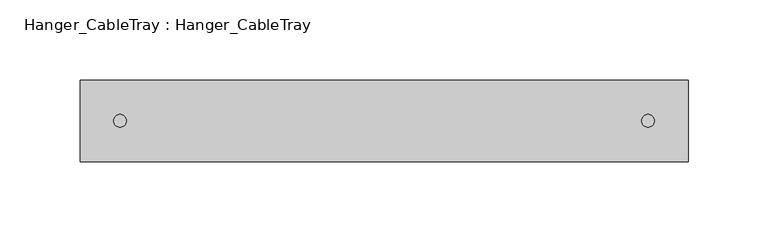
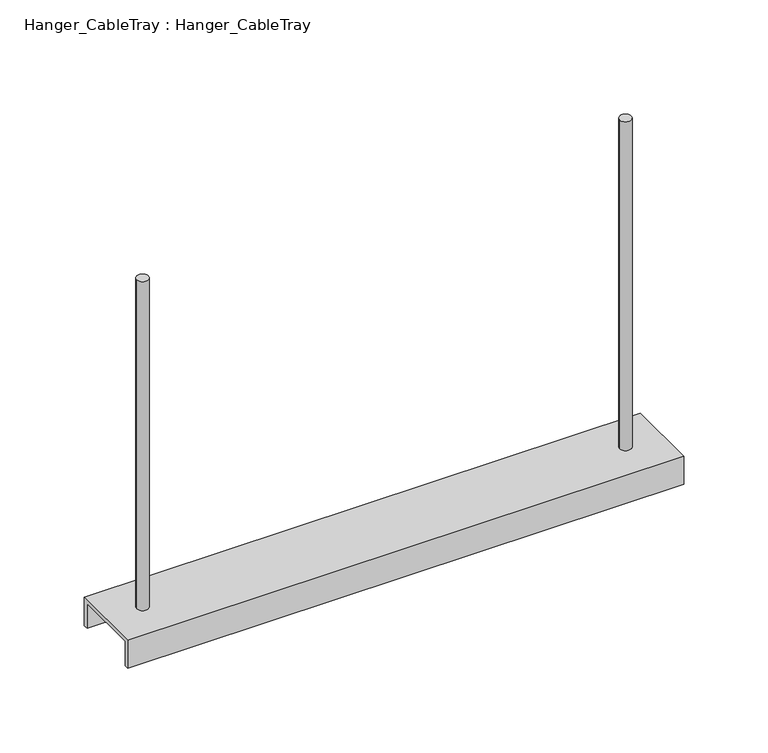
"""IFC4 building model written with IfcOpenShell, lengths in millimetres: cable carrier fitting geometry, Hanger_CableTray : Hanger_CableTray."""

from ifc_helpers import new_model, si_unit, frame, origin, place, context, project, spatial, circle_curve, source, transform, mapped, element, save
from ifc_brep_helpers import plane_surface, cylinder_surface, advanced_brep


def hanger_cabletray_hanger_cabletray_434e3e47(model_context):
    return source(origin(), model_context, "Body", "AdvancedBrep", [
        advanced_brep(
        [(-333.96875, 0.0, 25.0), (-326.03125, 0.0, 25.0), (-333.96875, 0.0, 283.0), (-326.03125, 0.0, 283.0), (-333.96875, 0.0, 45.3398437), (-326.03125, 0.0, 45.3398437), (-326.03125, 0.0, 42.7601562), (-333.96875, 0.0, 42.7601562), (25.0, -25.5, 45.3398437), (25.0, -25.5, 25.0), (25.0, -22.5, 25.0), (25.0, -22.5, 42.7601562), (25.0, 22.5, 42.7601562), (25.0, 22.5, 25.0), (25.0, 25.5, 25.0), (25.0, 25.5, 45.3398437), (-355.0, -25.5, 45.3398437), (-355.0, 25.5, 45.3398437), (-355.0, 25.5, 25.0), (-355.0, 22.5, 25.0), (-355.0, 22.5, 42.7601562), (-355.0, -22.5, 42.7601562), (-355.0, -22.5, 25.0), (-355.0, -25.5, 25.0), (3.96875, 0.0, 45.3398437), (-3.96875, 0.0, 45.3398437), (-3.96875, 0.0, 25.0), (3.96875, 0.0, 25.0), (-3.96875, 0.0, 283.0), (3.96875, 0.0, 283.0), (3.96875, 0.0, 42.7601562), (-3.96875, 0.0, 42.7601562)],
        [
            (0, 1, circle_curve(frame((-330.0, 0.0, 25.0), z_axis=(0.0, 0.0, -1.0), x_axis=(1.0, 0.0, 0.0)), 3.96875)),
            (1, 0, circle_curve(frame((-330.0, 0.0, 25.0), z_axis=(0.0, 0.0, -1.0), x_axis=(1.0, 0.0, 0.0)), 3.96875)),
            (2, 3, circle_curve(frame((-330.0, 0.0, 283.0), z_axis=(0.0, 0.0, 1.0), x_axis=(1.0, 0.0, 0.0)), 3.96875)),
            (3, 2, circle_curve(frame((-330.0, 0.0, 283.0), z_axis=(0.0, 0.0, 1.0), x_axis=(1.0, 0.0, 0.0)), 3.96875)),
            (2, 4),
            (4, 5, circle_curve(frame((-330.0, 0.0, 45.3398437), z_axis=(0.0, 0.0, 1.0), x_axis=(1.0, 0.0, 0.0)), 3.96875)),
            (5, 3),
            (1, 6),
            (6, 7, circle_curve(frame((-330.0, 0.0, 42.7601562), z_axis=(0.0, 0.0, -1.0), x_axis=(1.0, 0.0, 0.0)), 3.96875)),
            (7, 0),
            (5, 4, circle_curve(frame((-330.0, 0.0, 45.3398437), z_axis=(0.0, 0.0, 1.0), x_axis=(1.0, 0.0, 0.0)), 3.96875)),
            (7, 6, circle_curve(frame((-330.0, 0.0, 42.7601562), z_axis=(0.0, 0.0, -1.0), x_axis=(1.0, 0.0, 0.0)), 3.96875)),
            (8, 9),
            (9, 10),
            (10, 11),
            (11, 12),
            (12, 13),
            (13, 14),
            (14, 15),
            (15, 8),
            (16, 17),
            (17, 18),
            (18, 19),
            (19, 20),
            (20, 21),
            (21, 22),
            (22, 23),
            (23, 16),
            (8, 16),
            (23, 9),
            (13, 19),
            (18, 14),
            (17, 15),
            (24, 25, circle_curve(frame((0.0, 0.0, 45.3398437), z_axis=(0.0, 0.0, -1.0), x_axis=(1.0, 0.0, 0.0)), 3.96875)),
            (25, 24, circle_curve(frame((0.0, 0.0, 45.3398437), z_axis=(0.0, 0.0, -1.0), x_axis=(1.0, 0.0, 0.0)), 3.96875)),
            (26, 27, circle_curve(frame((0.0, 0.0, 25.0), z_axis=(0.0, 0.0, -1.0), x_axis=(1.0, 0.0, 0.0)), 3.96875)),
            (27, 26, circle_curve(frame((0.0, 0.0, 25.0), z_axis=(0.0, 0.0, -1.0), x_axis=(1.0, 0.0, 0.0)), 3.96875)),
            (28, 29, circle_curve(frame((0.0, 0.0, 283.0), z_axis=(0.0, 0.0, 1.0), x_axis=(1.0, 0.0, 0.0)), 3.96875)),
            (29, 28, circle_curve(frame((0.0, 0.0, 283.0), z_axis=(0.0, 0.0, 1.0), x_axis=(1.0, 0.0, 0.0)), 3.96875)),
            (28, 25),
            (24, 29),
            (27, 30),
            (30, 31, circle_curve(frame((0.0, 0.0, 42.7601562), z_axis=(0.0, 0.0, -1.0), x_axis=(1.0, 0.0, 0.0)), 3.96875)),
            (31, 26),
            (31, 30, circle_curve(frame((0.0, 0.0, 42.7601562), z_axis=(0.0, 0.0, -1.0), x_axis=(1.0, 0.0, 0.0)), 3.96875)),
            (22, 10),
            (21, 11),
            (20, 12),
        ],
        [
            plane_surface(frame((-326.03125, 0.0, 25.0), z_axis=(0.0, 0.0, -1.0), x_axis=(0.0, -1.0, 0.0))),
            plane_surface(frame((-326.03125, 0.0, 283.0), z_axis=(0.0, 0.0, 1.0), x_axis=(0.0, 1.0, 0.0))),
            cylinder_surface(frame((-330.0, 0.0, 25.0), z_axis=(0.0, 0.0, 1.0), x_axis=(1.0, 0.0, 0.0)), 3.96875),
            plane_surface(frame((25.0, -25.5, 45.3398437), z_axis=(1.0, 0.0, 0.0), x_axis=(0.0, 0.0, -1.0))),
            plane_surface(frame((-355.0, -25.5, 45.3398437), z_axis=(-1.0, 0.0, 0.0), x_axis=(0.0, 0.0, 1.0))),
            plane_surface(frame((25.0, -25.5, 45.3398437), z_axis=(0.0, -1.0, 0.0), x_axis=(-1.0, 0.0, 0.0))),
            plane_surface(frame((25.0, 22.5, 25.0), z_axis=(0.0, 0.0, -1.0), x_axis=(-1.0, 0.0, 0.0))),
            plane_surface(frame((25.0, 25.5, 25.0), z_axis=(0.0, 1.0, 0.0), x_axis=(-1.0, 0.0, 0.0))),
            plane_surface(frame((25.0, 25.5, 45.3398437), z_axis=(0.0, 0.0, 1.0), x_axis=(-1.0, 0.0, 0.0))),
            plane_surface(frame((3.96875, 0.0, 25.0), z_axis=(0.0, 0.0, -1.0), x_axis=(0.0, -1.0, 0.0))),
            plane_surface(frame((3.96875, 0.0, 283.0), z_axis=(0.0, 0.0, 1.0), x_axis=(0.0, 1.0, 0.0))),
            cylinder_surface(frame((0.0, 0.0, 25.0), z_axis=(0.0, 0.0, 1.0), x_axis=(1.0, 0.0, 0.0)), 3.96875),
            plane_surface(frame((25.0, -25.5, 25.0), z_axis=(0.0, 0.0, -1.0), x_axis=(-1.0, 0.0, 0.0))),
            plane_surface(frame((25.0, -22.5, 25.0), z_axis=(0.0, 1.0, 0.0), x_axis=(-1.0, 0.0, 0.0))),
            plane_surface(frame((25.0, -22.5, 42.7601562), z_axis=(0.0, 0.0, -1.0), x_axis=(-1.0, 0.0, 0.0))),
            plane_surface(frame((25.0, 22.5, 42.7601562), z_axis=(0.0, -1.0, 0.0), x_axis=(-1.0, 0.0, 0.0))),
        ],
        [
            (0, [[1, 2]]),
            (1, [[3, 4]]),
            (2, [[-3, 5, 6, 7]]),
            (2, [[-2, 8, 9, 10]]),
            (2, [[-4, -7, 11, -5]]),
            (2, [[-1, -10, 12, -8]]),
            (3, [[13, 14, 15, 16, 17, 18, 19, 20]]),
            (4, [[21, 22, 23, 24, 25, 26, 27, 28]]),
            (5, [[-13, 29, -28, 30]]),
            (6, [[-18, 31, -23, 32]]),
            (7, [[-19, -32, -22, 33]]),
            (8, [[-20, -33, -21, -29], [-6, -11], [34, 35]]),
            (9, [[36, 37]]),
            (10, [[38, 39]]),
            (11, [[-38, 40, -34, 41]]),
            (11, [[-37, 42, 43, 44]]),
            (11, [[-39, -41, -35, -40]]),
            (11, [[-36, -44, 45, -42]]),
            (12, [[-14, -30, -27, 46]]),
            (13, [[-15, -46, -26, 47]]),
            (14, [[-16, -47, -25, 48], [-9, -12], [-43, -45]]),
            (15, [[-17, -48, -24, -31]]),
        ],
    ),
    ])


if __name__ == "__main__":
    model = new_model("IFC4")
    model_context = context("Model", 3, world=origin())
    ifc_project = project(units=[si_unit("LENGTHUNIT", "METRE", prefix="MILLI")], contexts=[model_context])
    site = spatial("IfcSite", under=ifc_project)
    building = spatial("IfcBuilding", under=site)
    placement = place(None, origin())
    hanger_cabletray_hanger_cabletray_shape = hanger_cabletray_hanger_cabletray_434e3e47(model_context)
    element("IfcCableCarrierFitting", 1, ObjectType="Hanger_CableTray : Hanger_CableTray", at=placement, inside=building, context=model_context, shape_type="MappedRepresentation", body=[
        mapped(hanger_cabletray_hanger_cabletray_shape, transform((0.0, 0.0, 0.0), x_axis=(1.0, 0.0, 0.0), y_axis=(0.0, 1.0, 0.0), z_axis=(0.0, 0.0, 1.0))),
    ])
    save(model, "model.ifc")
